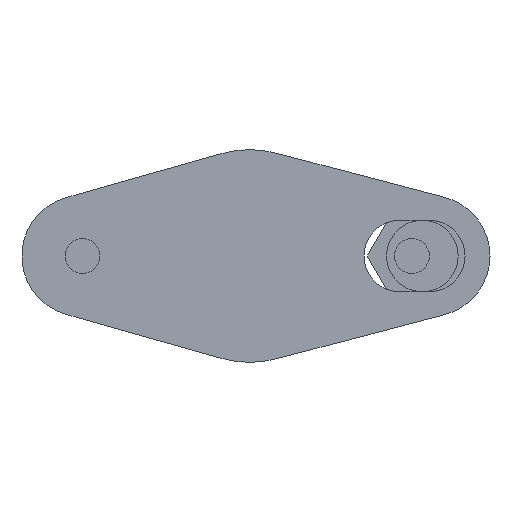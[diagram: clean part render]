
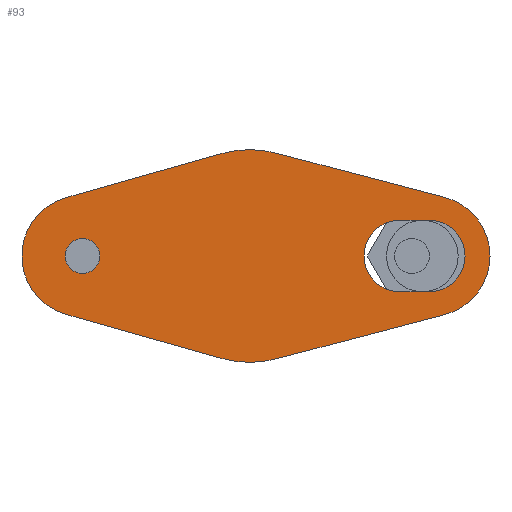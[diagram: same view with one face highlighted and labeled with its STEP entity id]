
A CAD part, front view. The second image highlights one B-rep face of the part: STEP entity #93.
In plain terms, the highlighted planar face has unit normal (0, -1, 0).
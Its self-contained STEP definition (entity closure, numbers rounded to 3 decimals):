
#93=ADVANCED_FACE('',(#179,#180,#181),#182,.F.);
#179=FACE_OUTER_BOUND('',#335,.T.);
#180=FACE_BOUND('',#336,.T.);
#181=FACE_BOUND('',#337,.T.);
#182=PLANE('',#338);
#335=EDGE_LOOP('',(#552,#553,#554,#555,#556,#557,#558,#559,#560,#561));
#336=EDGE_LOOP('',(#562,#563));
#337=EDGE_LOOP('',(#564,#565,#566,#567));
#338=AXIS2_PLACEMENT_3D('',#568,#569,#570);
#552=ORIENTED_EDGE('',*,*,#1067,.F.);
#553=ORIENTED_EDGE('',*,*,#1068,.F.);
#554=ORIENTED_EDGE('',*,*,#1069,.F.);
#555=ORIENTED_EDGE('',*,*,#1070,.F.);
#556=ORIENTED_EDGE('',*,*,#1021,.F.);
#557=ORIENTED_EDGE('',*,*,#1071,.F.);
#558=ORIENTED_EDGE('',*,*,#1072,.F.);
#559=ORIENTED_EDGE('',*,*,#1073,.F.);
#560=ORIENTED_EDGE('',*,*,#1074,.F.);
#561=ORIENTED_EDGE('',*,*,#1051,.F.);
#562=ORIENTED_EDGE('',*,*,#1028,.F.);
#563=ORIENTED_EDGE('',*,*,#1075,.F.);
#564=ORIENTED_EDGE('',*,*,#1076,.T.);
#565=ORIENTED_EDGE('',*,*,#1077,.T.);
#566=ORIENTED_EDGE('',*,*,#1078,.T.);
#567=ORIENTED_EDGE('',*,*,#1079,.T.);
#568=CARTESIAN_POINT('',(19.3,0.0,0.0));
#569=DIRECTION('',(-0.0,1.0,0.0));
#570=DIRECTION('',(1.0,0.0,0.0));
#1021=EDGE_CURVE('',#1188,#1191,#1192,.T.);
#1028=EDGE_CURVE('',#1204,#1205,#1206,.T.);
#1051=EDGE_CURVE('',#1246,#1248,#1249,.T.);
#1067=EDGE_CURVE('',#1275,#1246,#1276,.T.);
#1068=EDGE_CURVE('',#1277,#1275,#1278,.T.);
#1069=EDGE_CURVE('',#1279,#1277,#1280,.T.);
#1070=EDGE_CURVE('',#1191,#1279,#1281,.T.);
#1071=EDGE_CURVE('',#1282,#1188,#1283,.T.);
#1072=EDGE_CURVE('',#1284,#1282,#1285,.T.);
#1073=EDGE_CURVE('',#1286,#1284,#1287,.T.);
#1074=EDGE_CURVE('',#1248,#1286,#1288,.T.);
#1075=EDGE_CURVE('',#1205,#1204,#1289,.T.);
#1076=EDGE_CURVE('',#1290,#1291,#1292,.T.);
#1077=EDGE_CURVE('',#1291,#1293,#1294,.T.);
#1078=EDGE_CURVE('',#1293,#1295,#1296,.T.);
#1079=EDGE_CURVE('',#1295,#1290,#1297,.T.);
#1188=VERTEX_POINT('',#1466);
#1191=VERTEX_POINT('',#1470);
#1192=CIRCLE('',#1471,12.25);
#1204=VERTEX_POINT('',#1486);
#1205=VERTEX_POINT('',#1487);
#1206=CIRCLE('',#1488,2.0);
#1246=VERTEX_POINT('',#1540);
#1248=VERTEX_POINT('',#1543);
#1249=CIRCLE('',#1544,12.25);
#1275=VERTEX_POINT('',#1577);
#1276=CIRCLE('',#1578,12.25);
#1277=VERTEX_POINT('',#1579);
#1278=LINE('',#1580,#1581);
#1279=VERTEX_POINT('',#1582);
#1280=CIRCLE('',#1583,7.0);
#1281=LINE('',#1584,#1585);
#1282=VERTEX_POINT('',#1586);
#1283=CIRCLE('',#1587,12.25);
#1284=VERTEX_POINT('',#1588);
#1285=LINE('',#1589,#1590);
#1286=VERTEX_POINT('',#1591);
#1287=CIRCLE('',#1592,7.0);
#1288=LINE('',#1593,#1594);
#1289=CIRCLE('',#1595,2.0);
#1290=VERTEX_POINT('',#1596);
#1291=VERTEX_POINT('',#1597);
#1292=CIRCLE('',#1598,4.125);
#1293=VERTEX_POINT('',#1599);
#1294=LINE('',#1600,#1601);
#1295=VERTEX_POINT('',#1602);
#1296=CIRCLE('',#1603,4.125);
#1297=LINE('',#1604,#1605);
#1466=CARTESIAN_POINT('',(19.3,0.0,12.25));
#1470=CARTESIAN_POINT('',(22.407,0.0,11.849));
#1471=AXIS2_PLACEMENT_3D('',#1863,#1864,#1865);
#1486=CARTESIAN_POINT('',(0.0,0.0,-2.0));
#1487=CARTESIAN_POINT('',(0.,0.0,2.0));
#1488=AXIS2_PLACEMENT_3D('',#1878,#1879,#1880);
#1540=CARTESIAN_POINT('',(19.3,0.0,-12.25));
#1543=CARTESIAN_POINT('',(15.968,0.0,-11.788));
#1544=AXIS2_PLACEMENT_3D('',#1921,#1922,#1923);
#1577=CARTESIAN_POINT('',(22.407,0.0,-11.849));
#1578=AXIS2_PLACEMENT_3D('',#1955,#1956,#1957);
#1579=CARTESIAN_POINT('',(41.775,0.0,-6.771));
#1580=CARTESIAN_POINT('',(22.407,0.0,-11.849));
#1581=VECTOR('',#1958,1000.0);
#1582=CARTESIAN_POINT('',(41.775,0.0,6.771));
#1583=AXIS2_PLACEMENT_3D('',#1959,#1960,#1961);
#1584=CARTESIAN_POINT('',(22.407,0.0,11.849));
#1585=VECTOR('',#1962,1000.0);
#1586=CARTESIAN_POINT('',(15.968,0.0,11.788));
#1587=AXIS2_PLACEMENT_3D('',#1963,#1964,#1965);
#1588=CARTESIAN_POINT('',(-1.904,0.0,6.736));
#1589=CARTESIAN_POINT('',(15.968,0.0,11.788));
#1590=VECTOR('',#1966,1000.0);
#1591=CARTESIAN_POINT('',(-1.904,0.0,-6.736));
#1592=AXIS2_PLACEMENT_3D('',#1967,#1968,#1969);
#1593=CARTESIAN_POINT('',(15.968,0.0,-11.788));
#1594=VECTOR('',#1970,1000.0);
#1595=AXIS2_PLACEMENT_3D('',#1971,#1972,#1973);
#1596=CARTESIAN_POINT('',(36.6,0.0,-4.125));
#1597=CARTESIAN_POINT('',(36.6,0.0,4.125));
#1598=AXIS2_PLACEMENT_3D('',#1974,#1975,#1976);
#1599=CARTESIAN_POINT('',(40.0,0.0,4.125));
#1600=CARTESIAN_POINT('',(36.6,0.0,4.125));
#1601=VECTOR('',#1977,1000.0);
#1602=CARTESIAN_POINT('',(40.0,0.0,-4.125));
#1603=AXIS2_PLACEMENT_3D('',#1978,#1979,#1980);
#1604=CARTESIAN_POINT('',(36.6,0.0,-4.125));
#1605=VECTOR('',#1981,1000.0);
#1863=CARTESIAN_POINT('',(19.3,0.0,0.0));
#1864=DIRECTION('',(0.0,1.0,0.0));
#1865=DIRECTION('',(0.0,0.0,1.0));
#1878=CARTESIAN_POINT('',(0.0,0.0,0.0));
#1879=DIRECTION('',(0.0,-1.0,0.0));
#1880=DIRECTION('',(0.0,0.0,1.0));
#1921=CARTESIAN_POINT('',(19.3,0.0,0.0));
#1922=DIRECTION('',(0.0,1.0,0.0));
#1923=DIRECTION('',(0.0,0.0,1.0));
#1955=CARTESIAN_POINT('',(19.3,0.0,0.0));
#1956=DIRECTION('',(0.0,1.0,0.0));
#1957=DIRECTION('',(0.0,0.0,1.0));
#1958=DIRECTION('',(-0.967,-0.0,-0.254));
#1959=CARTESIAN_POINT('',(40.0,0.0,0.0));
#1960=DIRECTION('',(0.0,1.0,0.0));
#1961=DIRECTION('',(0.0,0.0,1.0));
#1962=DIRECTION('',(0.967,0.0,-0.254));
#1963=CARTESIAN_POINT('',(19.3,0.0,0.0));
#1964=DIRECTION('',(0.0,1.0,0.0));
#1965=DIRECTION('',(0.0,0.0,1.0));
#1966=DIRECTION('',(0.962,-0.0,0.272));
#1967=CARTESIAN_POINT('',(0.0,0.0,0.0));
#1968=DIRECTION('',(0.0,1.0,0.0));
#1969=DIRECTION('',(0.0,0.0,1.0));
#1970=DIRECTION('',(-0.962,0.0,0.272));
#1971=CARTESIAN_POINT('',(0.0,0.0,0.0));
#1972=DIRECTION('',(0.0,-1.0,0.0));
#1973=DIRECTION('',(0.0,0.0,1.0));
#1974=CARTESIAN_POINT('',(36.6,0.0,0.0));
#1975=DIRECTION('',(0.0,1.0,0.0));
#1976=DIRECTION('',(0.0,0.0,1.0));
#1977=DIRECTION('',(1.0,0.0,0.0));
#1978=CARTESIAN_POINT('',(40.0,0.0,0.0));
#1979=DIRECTION('',(0.0,1.0,0.0));
#1980=DIRECTION('',(0.0,0.0,1.0));
#1981=DIRECTION('',(-1.0,-0.0,-0.0));
